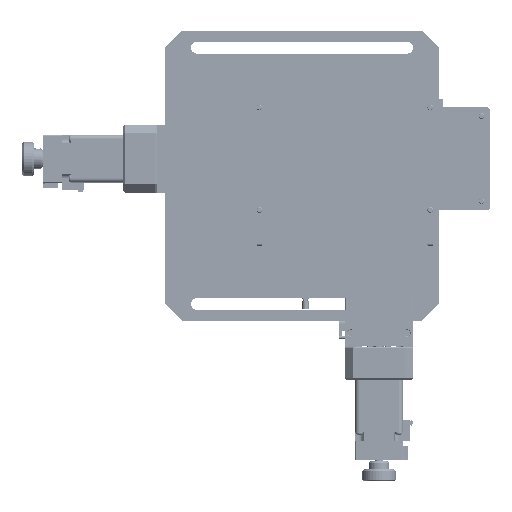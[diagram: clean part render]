
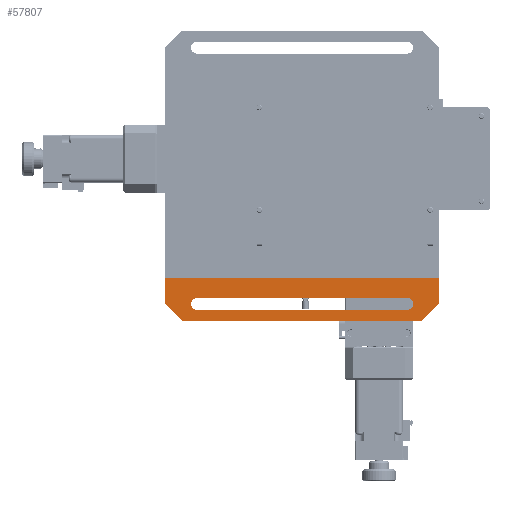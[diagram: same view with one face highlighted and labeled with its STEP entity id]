
A CAD part, front view. The second image highlights one B-rep face of the part: STEP entity #57807.
In plain terms, the highlighted planar face has unit normal (0, -1, 0).
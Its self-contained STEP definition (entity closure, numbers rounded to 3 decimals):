
#3660 = ORIENTED_EDGE ( 'NONE', *, *, #233664, .T. ) ;
#8811 = VECTOR ( 'NONE', #188440, 1000. ) ;
#17404 = VERTEX_POINT ( 'NONE', #52342 ) ;
#17405 = ORIENTED_EDGE ( 'NONE', *, *, #314593, .T. ) ;
#20118 = DIRECTION ( 'NONE',  ( 1., 0., 0. ) ) ;
#20452 = DIRECTION ( 'NONE',  ( 1., 0., 0. ) ) ;
#36772 = CARTESIAN_POINT ( 'NONE',  ( -18.5, 0., -163.5 ) ) ;
#36942 = CARTESIAN_POINT ( 'NONE',  ( 0., 0., -160. ) ) ;
#37068 = VECTOR ( 'NONE', #374990, 1000. ) ;
#39402 = DIRECTION ( 'NONE',  ( -1., 0., 0. ) ) ;
#39998 = CARTESIAN_POINT ( 'NONE',  ( -160., 0., -145. ) ) ;
#43144 = VECTOR ( 'NONE', #39402, 1000. ) ;
#43313 = VECTOR ( 'NONE', #262517, 1000. ) ;
#43336 = EDGE_CURVE ( 'NONE', #243849, #153453, #104660, .T. ) ;
#45693 = CARTESIAN_POINT ( 'NONE',  ( -141.5, 0., -156.5 ) ) ;
#52342 = CARTESIAN_POINT ( 'NONE',  ( -10., 0., -170. ) ) ;
#53123 = DIRECTION ( 'NONE',  ( 1., 0., 0. ) ) ;
#57807 = ADVANCED_FACE ( 'NONE', ( #336669, #67277 ), #170570, .T. ) ;
#58450 = DIRECTION ( 'NONE',  ( 0., 1., 0. ) ) ;
#66611 = VERTEX_POINT ( 'NONE', #205051 ) ;
#67277 = FACE_BOUND ( 'NONE', #78688, .T. ) ;
#70557 = EDGE_CURVE ( 'NONE', #384576, #215124, #99076, .T. ) ;
#77834 = CARTESIAN_POINT ( 'NONE',  ( -160., 0., -160. ) ) ;
#78688 = EDGE_LOOP ( 'NONE', ( #283852, #151654, #238549, #243393 ) ) ;
#78737 = AXIS2_PLACEMENT_3D ( 'NONE', #348946, #289467, #20118 ) ;
#85356 = EDGE_CURVE ( 'NONE', #127556, #260653, #315928, .T. ) ;
#86941 = CARTESIAN_POINT ( 'NONE',  ( -141.5, 0., -163.5 ) ) ;
#93629 = LINE ( 'NONE', #129091, #8811 ) ;
#99076 = CIRCLE ( 'NONE', #345957, 3.5 ) ;
#101382 = EDGE_CURVE ( 'NONE', #198303, #17404, #209869, .T. ) ;
#104660 = LINE ( 'NONE', #213765, #189838 ) ;
#107684 = CARTESIAN_POINT ( 'NONE',  ( -150., 0., -170. ) ) ;
#127556 = VERTEX_POINT ( 'NONE', #214261 ) ;
#129091 = CARTESIAN_POINT ( 'NONE',  ( -141.5, 0., -156.5 ) ) ;
#131760 = ORIENTED_EDGE ( 'NONE', *, *, #218012, .T. ) ;
#135508 = EDGE_CURVE ( 'NONE', #66611, #153453, #255308, .T. ) ;
#135766 = CARTESIAN_POINT ( 'NONE',  ( -160., 0., -160. ) ) ;
#141044 = CARTESIAN_POINT ( 'NONE',  ( 0., 0., -145. ) ) ;
#150268 = LINE ( 'NONE', #287727, #37068 ) ;
#151654 = ORIENTED_EDGE ( 'NONE', *, *, #153643, .T. ) ;
#152892 = CARTESIAN_POINT ( 'NONE',  ( -18.5, 0., -163.5 ) ) ;
#153453 = VERTEX_POINT ( 'NONE', #141044 ) ;
#153643 = EDGE_CURVE ( 'NONE', #260653, #384576, #378364, .T. ) ;
#170570 = PLANE ( 'NONE',  #78737 ) ;
#174888 = VECTOR ( 'NONE', #219530, 1000. ) ;
#187343 = ORIENTED_EDGE ( 'NONE', *, *, #43336, .T. ) ;
#188440 = DIRECTION ( 'NONE',  ( 1., 0., 0. ) ) ;
#189838 = VECTOR ( 'NONE', #273146, 1000. ) ;
#198303 = VERTEX_POINT ( 'NONE', #297747 ) ;
#203934 = VERTEX_POINT ( 'NONE', #135766 ) ;
#205051 = CARTESIAN_POINT ( 'NONE',  ( -160., 0., -145. ) ) ;
#209869 = LINE ( 'NONE', #107684, #285262 ) ;
#213765 = CARTESIAN_POINT ( 'NONE',  ( 0., 0., -160. ) ) ;
#214261 = CARTESIAN_POINT ( 'NONE',  ( -18.5, 0., -156.5 ) ) ;
#215124 = VERTEX_POINT ( 'NONE', #45693 ) ;
#218012 = EDGE_CURVE ( 'NONE', #203934, #198303, #378543, .T. ) ;
#219530 = DIRECTION ( 'NONE',  ( 1., 0., 0. ) ) ;
#228954 = VECTOR ( 'NONE', #367245, 1000. ) ;
#233664 = EDGE_CURVE ( 'NONE', #66611, #203934, #332815, .T. ) ;
#238549 = ORIENTED_EDGE ( 'NONE', *, *, #70557, .T. ) ;
#239289 = DIRECTION ( 'NONE',  ( 0., 0., 1. ) ) ;
#243393 = ORIENTED_EDGE ( 'NONE', *, *, #378853, .T. ) ;
#243849 = VERTEX_POINT ( 'NONE', #36942 ) ;
#255308 = LINE ( 'NONE', #39998, #174888 ) ;
#256198 = AXIS2_PLACEMENT_3D ( 'NONE', #272198, #58450, #239289 ) ;
#260653 = VERTEX_POINT ( 'NONE', #152892 ) ;
#262517 = DIRECTION ( 'NONE',  ( 0.707, 0., -0.707 ) ) ;
#266889 = DIRECTION ( 'NONE',  ( 0., 1., 0. ) ) ;
#272198 = CARTESIAN_POINT ( 'NONE',  ( -18.5, 0., -160. ) ) ;
#273146 = DIRECTION ( 'NONE',  ( 0., 0., 1. ) ) ;
#283852 = ORIENTED_EDGE ( 'NONE', *, *, #85356, .T. ) ;
#285262 = VECTOR ( 'NONE', #20452, 1000. ) ;
#287727 = CARTESIAN_POINT ( 'NONE',  ( -10., 0., -170. ) ) ;
#289467 = DIRECTION ( 'NONE',  ( 0., -1., 0. ) ) ;
#297747 = CARTESIAN_POINT ( 'NONE',  ( -150., 0., -170. ) ) ;
#305106 = EDGE_LOOP ( 'NONE', ( #3660, #131760, #330259, #17405, #187343, #347988 ) ) ;
#305219 = CARTESIAN_POINT ( 'NONE',  ( -160., 0., -145. ) ) ;
#314593 = EDGE_CURVE ( 'NONE', #17404, #243849, #150268, .T. ) ;
#315928 = CIRCLE ( 'NONE', #256198, 3.5 ) ;
#330259 = ORIENTED_EDGE ( 'NONE', *, *, #101382, .T. ) ;
#332815 = LINE ( 'NONE', #305219, #228954 ) ;
#336669 = FACE_OUTER_BOUND ( 'NONE', #305106, .T. ) ;
#345957 = AXIS2_PLACEMENT_3D ( 'NONE', #352810, #266889, #53123 ) ;
#347988 = ORIENTED_EDGE ( 'NONE', *, *, #135508, .F. ) ;
#348946 = CARTESIAN_POINT ( 'NONE',  ( -170., 0., -172.5 ) ) ;
#352810 = CARTESIAN_POINT ( 'NONE',  ( -141.5, 0., -160. ) ) ;
#367245 = DIRECTION ( 'NONE',  ( 0., 0., -1. ) ) ;
#374990 = DIRECTION ( 'NONE',  ( 0.707, 0., 0.707 ) ) ;
#378364 = LINE ( 'NONE', #36772, #43144 ) ;
#378543 = LINE ( 'NONE', #77834, #43313 ) ;
#378853 = EDGE_CURVE ( 'NONE', #215124, #127556, #93629, .T. ) ;
#384576 = VERTEX_POINT ( 'NONE', #86941 ) ;
